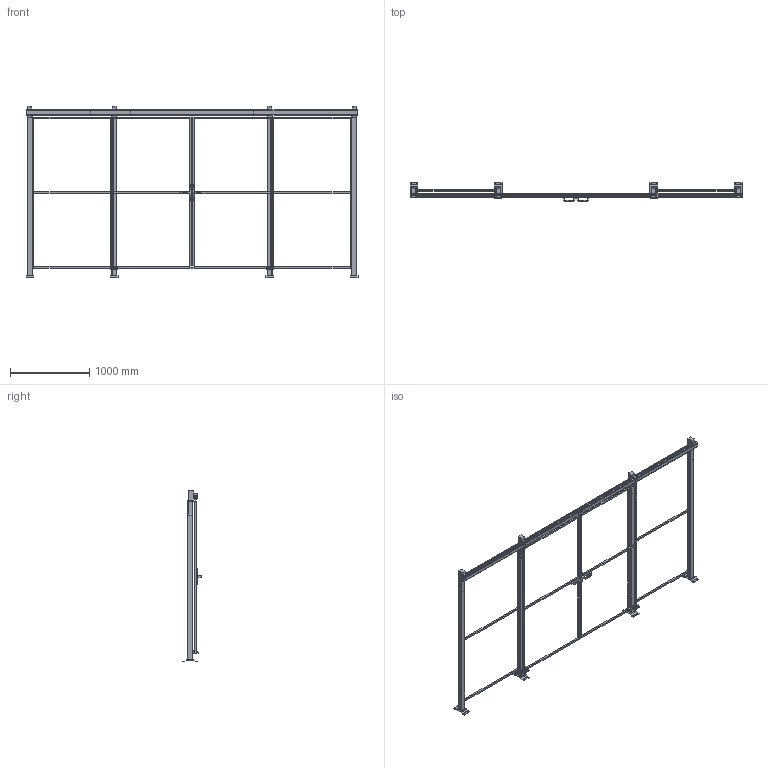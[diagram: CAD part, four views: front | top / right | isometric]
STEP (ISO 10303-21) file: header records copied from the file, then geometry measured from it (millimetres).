
FILE_DESCRIPTION(/* description */ (''),/* implementation_level */ '2;1');
FILE_NAME(/* name */ 'C:\SafeGuarding\ELABORATI\HOR§VED_2025-03-25-14-37-09.stp',/* time_stamp */ '2025-03-25T14:37:14+01:00',/* author */ ('admin'),/* organization */ (''),/* preprocessor_version */ 'ST-DEVELOPER v18.1',/* originating_system */ 'AutoCAD Mechanical',/* authorisation */ '');
FILE_SCHEMA (('AUTOMOTIVE_DESIGN { 1 0 10303 214 3 1 1 }'));
Length unit declared in the file: millimetre
Products named in the file (3): Product; R_VFPA.REPE20.10001900; P_VFMA.V360SDU.2020
Assembly tree (8 placements, depth 2):
  Product
    R_VFPA.REPE20.10001900  x4
    P_VFMA.V360SDU.2020  x4
Bounding box: 4180 x 235.9 x 2154 mm (x, y, z)
Volume: 50050362.8 mm3; surface area: 6827687.2 mm2
Topology: 55 solids, 77 shells, 592 faces, 1984 edges, 2060 vertices
Faces by surface type: plane 542, cylinder 50
Full cylindrical faces by diameter (mm): 11 x16, 12 x4, 14 x4, 15 x8, 40 x8
Entity records: 14530 total; most frequent: CARTESIAN_POINT 3112, DIRECTION 2149, ORIENTED_EDGE 2148, EDGE_CURVE 1172, LINE 1007, VECTOR 1007, VERTEX_POINT 864, AXIS2_PLACEMENT_3D 571
